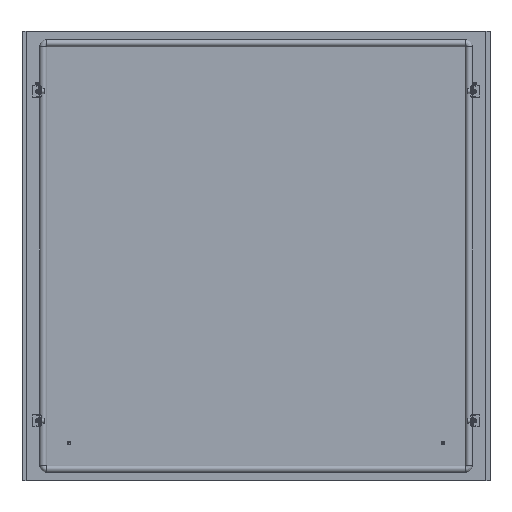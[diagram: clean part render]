
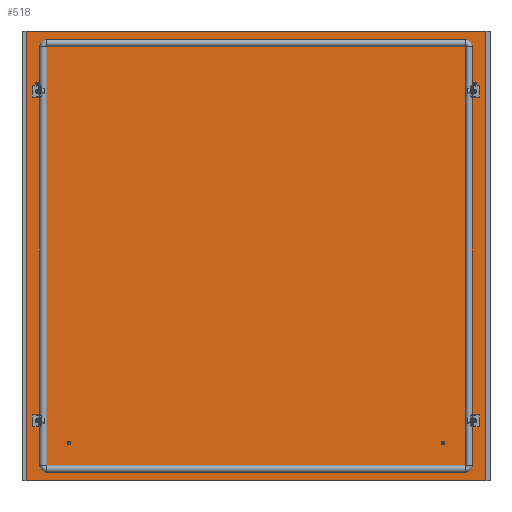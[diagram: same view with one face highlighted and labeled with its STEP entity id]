
A CAD part, top view. The second image highlights one B-rep face of the part: STEP entity #518.
In plain terms, the highlighted planar face has unit normal (0, 0, 1).
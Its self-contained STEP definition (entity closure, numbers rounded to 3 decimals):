
#226 = VERTEX_POINT('',#227);
#227 = CARTESIAN_POINT('',(495.5,-477.5,0.));
#260 = VERTEX_POINT('',#261);
#261 = CARTESIAN_POINT('',(495.5,477.5,0.));
#267 = EDGE_CURVE('',#226,#260,#268,.T.);
#268 = LINE('',#269,#270);
#269 = CARTESIAN_POINT('',(495.5,0.,0.));
#270 = VECTOR('',#271,1.);
#271 = DIRECTION('',(-0.,1.,-0.));
#360 = EDGE_CURVE('',#226,#361,#363,.T.);
#361 = VERTEX_POINT('',#362);
#362 = CARTESIAN_POINT('',(495.3,-477.5,0.));
#363 = LINE('',#364,#365);
#364 = CARTESIAN_POINT('',(0.,-477.5,0.
    ));
#365 = VECTOR('',#366,1.);
#366 = DIRECTION('',(-1.,0.,0.));
#385 = VERTEX_POINT('',#386);
#386 = CARTESIAN_POINT('',(-495.3,-477.5,0.));
#392 = EDGE_CURVE('',#393,#385,#395,.T.);
#393 = VERTEX_POINT('',#394);
#394 = CARTESIAN_POINT('',(-495.5,-477.5,0.));
#395 = LINE('',#396,#397);
#396 = CARTESIAN_POINT('',(0.,-477.5,
    0.));
#397 = VECTOR('',#398,1.);
#398 = DIRECTION('',(1.,-0.,-0.));
#415 = VERTEX_POINT('',#416);
#416 = CARTESIAN_POINT('',(-495.5,477.5,0.));
#447 = EDGE_CURVE('',#415,#393,#448,.T.);
#448 = LINE('',#449,#450);
#449 = CARTESIAN_POINT('',(-495.5,0.,0.));
#450 = VECTOR('',#451,1.);
#451 = DIRECTION('',(0.,-1.,-0.));
#518 = ADVANCED_FACE('',(#519,#585,#605,#625,#636),#647,.F.);
#519 = FACE_BOUND('',#520,.T.);
#520 = EDGE_LOOP('',(#521,#529,#530,#531,#539,#547,#553,#554,#555,#563,
    #571,#579));
#521 = ORIENTED_EDGE('',*,*,#522,.F.);
#522 = EDGE_CURVE('',#415,#523,#525,.T.);
#523 = VERTEX_POINT('',#524);
#524 = CARTESIAN_POINT('',(-495.3,477.5,0.));
#525 = LINE('',#526,#527);
#526 = CARTESIAN_POINT('',(0.,477.5,0.)
  );
#527 = VECTOR('',#528,1.);
#528 = DIRECTION('',(1.,0.,0.));
#529 = ORIENTED_EDGE('',*,*,#447,.T.);
#530 = ORIENTED_EDGE('',*,*,#392,.T.);
#531 = ORIENTED_EDGE('',*,*,#532,.F.);
#532 = EDGE_CURVE('',#533,#385,#535,.T.);
#533 = VERTEX_POINT('',#534);
#534 = CARTESIAN_POINT('',(-495.3,-476.,0.));
#535 = LINE('',#536,#537);
#536 = CARTESIAN_POINT('',(-495.3,0.,0.)
  );
#537 = VECTOR('',#538,1.);
#538 = DIRECTION('',(0.,-1.,0.));
#539 = ORIENTED_EDGE('',*,*,#540,.T.);
#540 = EDGE_CURVE('',#533,#541,#543,.T.);
#541 = VERTEX_POINT('',#542);
#542 = CARTESIAN_POINT('',(495.3,-476.,0.));
#543 = LINE('',#544,#545);
#544 = CARTESIAN_POINT('',(0.,-476.,
    0.));
#545 = VECTOR('',#546,1.);
#546 = DIRECTION('',(1.,-0.,-0.));
#547 = ORIENTED_EDGE('',*,*,#548,.T.);
#548 = EDGE_CURVE('',#541,#361,#549,.T.);
#549 = LINE('',#550,#551);
#550 = CARTESIAN_POINT('',(495.3,-476.,0.));
#551 = VECTOR('',#552,1.);
#552 = DIRECTION('',(0.,-1.,-0.));
#553 = ORIENTED_EDGE('',*,*,#360,.F.);
#554 = ORIENTED_EDGE('',*,*,#267,.T.);
#555 = ORIENTED_EDGE('',*,*,#556,.T.);
#556 = EDGE_CURVE('',#260,#557,#559,.T.);
#557 = VERTEX_POINT('',#558);
#558 = CARTESIAN_POINT('',(495.3,477.5,0.));
#559 = LINE('',#560,#561);
#560 = CARTESIAN_POINT('',(0.,477.5,0.)
  );
#561 = VECTOR('',#562,1.);
#562 = DIRECTION('',(-1.,-0.,-0.));
#563 = ORIENTED_EDGE('',*,*,#564,.F.);
#564 = EDGE_CURVE('',#565,#557,#567,.T.);
#565 = VERTEX_POINT('',#566);
#566 = CARTESIAN_POINT('',(495.3,476.,0.));
#567 = LINE('',#568,#569);
#568 = CARTESIAN_POINT('',(495.3,0.,0.)
  );
#569 = VECTOR('',#570,1.);
#570 = DIRECTION('',(0.,1.,0.));
#571 = ORIENTED_EDGE('',*,*,#572,.T.);
#572 = EDGE_CURVE('',#565,#573,#575,.T.);
#573 = VERTEX_POINT('',#574);
#574 = CARTESIAN_POINT('',(-495.3,476.,0.));
#575 = LINE('',#576,#577);
#576 = CARTESIAN_POINT('',(0.,476.,0.));
#577 = VECTOR('',#578,1.);
#578 = DIRECTION('',(-1.,-0.,-0.));
#579 = ORIENTED_EDGE('',*,*,#580,.T.);
#580 = EDGE_CURVE('',#573,#523,#581,.T.);
#581 = LINE('',#582,#583);
#582 = CARTESIAN_POINT('',(-495.3,476.,0.));
#583 = VECTOR('',#584,1.);
#584 = DIRECTION('',(0.,1.,-0.));
#585 = FACE_BOUND('',#586,.T.);
#586 = EDGE_LOOP('',(#587,#598));
#587 = ORIENTED_EDGE('',*,*,#588,.F.);
#588 = EDGE_CURVE('',#589,#591,#593,.T.);
#589 = VERTEX_POINT('',#590);
#590 = CARTESIAN_POINT('',(-464.5,354.75,0.));
#591 = VERTEX_POINT('',#592);
#592 = CARTESIAN_POINT('',(-464.5,345.25,0.));
#593 = CIRCLE('',#594,4.75);
#594 = AXIS2_PLACEMENT_3D('',#595,#596,#597);
#595 = CARTESIAN_POINT('',(-464.5,350.,0.));
#596 = DIRECTION('',(0.,0.,1.));
#597 = DIRECTION('',(0.,1.,0.));
#598 = ORIENTED_EDGE('',*,*,#599,.F.);
#599 = EDGE_CURVE('',#591,#589,#600,.T.);
#600 = CIRCLE('',#601,4.75);
#601 = AXIS2_PLACEMENT_3D('',#602,#603,#604);
#602 = CARTESIAN_POINT('',(-464.5,350.,0.));
#603 = DIRECTION('',(0.,0.,1.));
#604 = DIRECTION('',(0.,1.,0.));
#605 = FACE_BOUND('',#606,.T.);
#606 = EDGE_LOOP('',(#607,#618));
#607 = ORIENTED_EDGE('',*,*,#608,.F.);
#608 = EDGE_CURVE('',#609,#611,#613,.T.);
#609 = VERTEX_POINT('',#610);
#610 = CARTESIAN_POINT('',(464.5,345.25,0.));
#611 = VERTEX_POINT('',#612);
#612 = CARTESIAN_POINT('',(464.5,354.75,0.));
#613 = CIRCLE('',#614,4.75);
#614 = AXIS2_PLACEMENT_3D('',#615,#616,#617);
#615 = CARTESIAN_POINT('',(464.5,350.,0.));
#616 = DIRECTION('',(0.,0.,1.));
#617 = DIRECTION('',(0.,-1.,0.));
#618 = ORIENTED_EDGE('',*,*,#619,.F.);
#619 = EDGE_CURVE('',#611,#609,#620,.T.);
#620 = CIRCLE('',#621,4.75);
#621 = AXIS2_PLACEMENT_3D('',#622,#623,#624);
#622 = CARTESIAN_POINT('',(464.5,350.,0.));
#623 = DIRECTION('',(0.,0.,1.));
#624 = DIRECTION('',(0.,-1.,0.));
#625 = FACE_BOUND('',#626,.T.);
#626 = EDGE_LOOP('',(#627));
#627 = ORIENTED_EDGE('',*,*,#628,.T.);
#628 = EDGE_CURVE('',#629,#629,#631,.T.);
#629 = VERTEX_POINT('',#630);
#630 = CARTESIAN_POINT('',(-464.5,-345.25,0.));
#631 = CIRCLE('',#632,4.75);
#632 = AXIS2_PLACEMENT_3D('',#633,#634,#635);
#633 = CARTESIAN_POINT('',(-464.5,-350.,0.));
#634 = DIRECTION('',(0.,0.,-1.));
#635 = DIRECTION('',(0.,1.,0.));
#636 = FACE_BOUND('',#637,.T.);
#637 = EDGE_LOOP('',(#638));
#638 = ORIENTED_EDGE('',*,*,#639,.T.);
#639 = EDGE_CURVE('',#640,#640,#642,.T.);
#640 = VERTEX_POINT('',#641);
#641 = CARTESIAN_POINT('',(464.5,-354.75,0.));
#642 = CIRCLE('',#643,4.75);
#643 = AXIS2_PLACEMENT_3D('',#644,#645,#646);
#644 = CARTESIAN_POINT('',(464.5,-350.,0.));
#645 = DIRECTION('',(-0.,0.,-1.));
#646 = DIRECTION('',(0.,-1.,0.));
#647 = PLANE('',#648);
#648 = AXIS2_PLACEMENT_3D('',#649,#650,#651);
#649 = CARTESIAN_POINT('',(0.,0.,0.));
#650 = DIRECTION('',(0.,0.,-1.));
#651 = DIRECTION('',(-1.,0.,0.));
